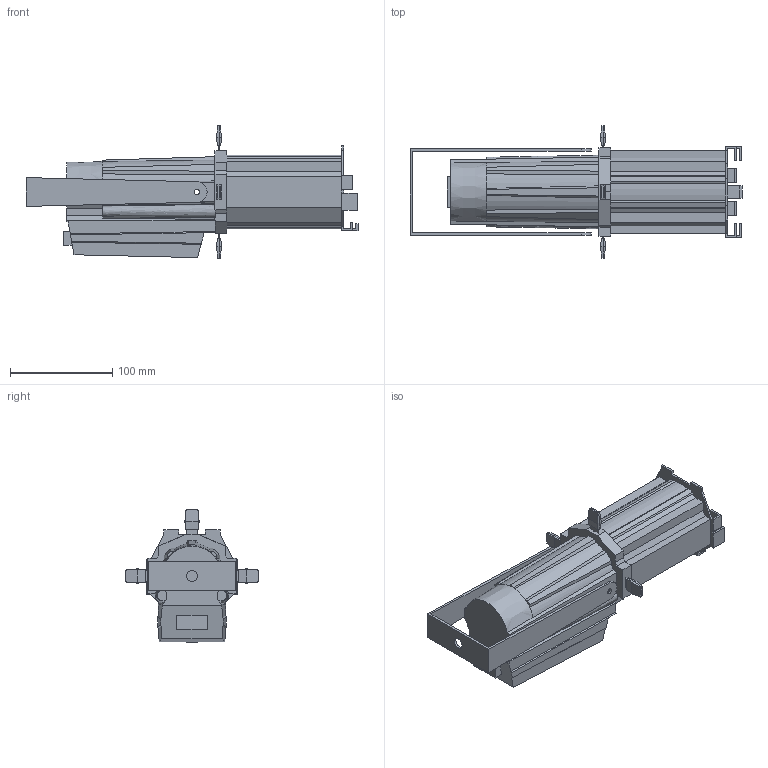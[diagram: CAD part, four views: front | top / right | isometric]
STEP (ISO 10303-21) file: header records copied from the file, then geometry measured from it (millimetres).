
FILE_DESCRIPTION(/* description */ (''),/* implementation_level */ '2;1');
FILE_NAME(/* name */ 'D:/dgooch/Documents/CADENG/PRO/Ovation ETD 40WW/0/Ovation ETD-40WW_0.step',/* time_stamp */ '2019-03-21T14:25:05-04:00',/* author */ ('dgooch'),/* organization */ (''),/* preprocessor_version */ 'ST-DEVELOPER v17.2',/* originating_system */ 'Autodesk Translation Framework v7.6.0.251',/* authorisation */ '');
FILE_SCHEMA (('AUTOMOTIVE_DESIGN { 1 0 10303 214 3 1 1 }'));
Length unit declared in the file: millimetre
Products named in the file (3): Ovation ETD40WW_V2; Bracket; Main
Assembly tree (2 placements, depth 2):
  Ovation ETD40WW_V2
    Bracket
    Main
Bounding box: 324.5 x 129.54 x 129.54 mm (x, y, z)
Volume: 1389315.7 mm3; surface area: 128554.7 mm2
Topology: 2 solids, 2 shells, 294 faces, 797 edges, 512 vertices
Faces by surface type: plane 243, bspline 42, cylinder 9
Full cylindrical faces by diameter (mm): 5.5 x3, 11 x1, 56 x1
Entity records: 12297 total; most frequent: CARTESIAN_POINT 5144, ORIENTED_EDGE 1594, DIRECTION 1233, EDGE_CURVE 797, LINE 649, VECTOR 649, VERTEX_POINT 512, EDGE_LOOP 307
